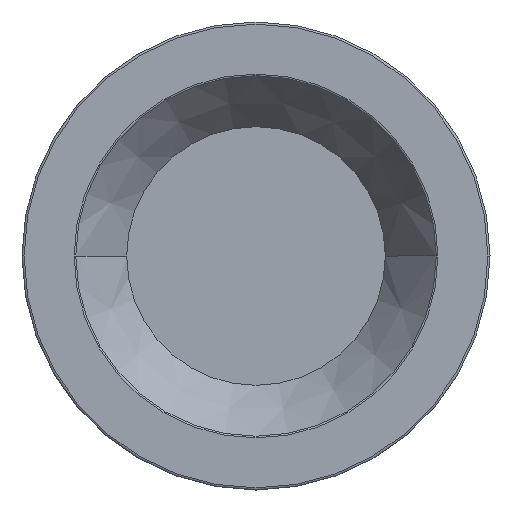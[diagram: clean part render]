
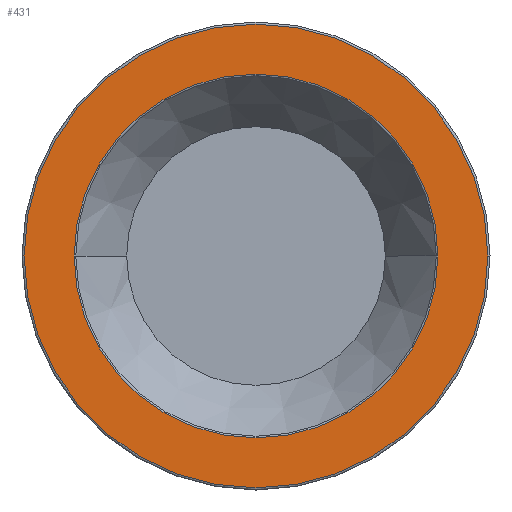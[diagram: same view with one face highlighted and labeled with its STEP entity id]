
A CAD part, front view. The second image highlights one B-rep face of the part: STEP entity #431.
In plain terms, the highlighted planar face has unit normal (0, -1, 0).
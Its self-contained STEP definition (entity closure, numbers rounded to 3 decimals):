
#21=CARTESIAN_POINT('',(0.,0.,0.));
#22=DIRECTION('',(0.,1.,0.));
#23=DIRECTION('',(-1.,0.,0.));
#24=AXIS2_PLACEMENT_3D('',#21,#22,#23);
#30=CARTESIAN_POINT('',(0.,0.,0.));
#31=DIRECTION('',(0.,1.,0.));
#32=DIRECTION('',(1.,0.,0.));
#33=AXIS2_PLACEMENT_3D('',#30,#31,#32);
#38=CARTESIAN_POINT('',(0.,0.,0.));
#39=DIRECTION('',(0.,-1.,0.));
#40=DIRECTION('',(1.,0.,0.));
#41=AXIS2_PLACEMENT_3D('',#38,#39,#40);
#46=CARTESIAN_POINT('',(0.,0.,0.));
#47=DIRECTION('',(0.,-1.,0.));
#48=DIRECTION('',(-1.,0.,0.));
#49=AXIS2_PLACEMENT_3D('',#46,#47,#48);
#378=CARTESIAN_POINT('',(-42.749,0.,0.));
#379=CARTESIAN_POINT('',(42.749,0.,0.));
#380=VERTEX_POINT('',#378);
#381=VERTEX_POINT('',#379);
#398=CARTESIAN_POINT('',(54.5,0.,0.));
#399=CARTESIAN_POINT('',(-54.5,0.,0.));
#400=VERTEX_POINT('',#398);
#401=VERTEX_POINT('',#399);
#414=CARTESIAN_POINT('',(0.,0.,0.));
#415=DIRECTION('',(0.,1.,0.));
#416=DIRECTION('',(1.,0.,0.));
#417=AXIS2_PLACEMENT_3D('',#414,#415,#416);
#418=PLANE('',#417);
#420=ORIENTED_EDGE('',*,*,#419,.F.);
#422=ORIENTED_EDGE('',*,*,#421,.F.);
#423=EDGE_LOOP('',(#420,#422));
#424=FACE_OUTER_BOUND('',#423,.F.);
#426=ORIENTED_EDGE('',*,*,#425,.F.);
#428=ORIENTED_EDGE('',*,*,#427,.F.);
#429=EDGE_LOOP('',(#426,#428));
#430=FACE_BOUND('',#429,.F.);
#431=ADVANCED_FACE('',(#424,#430),#418,.F.);
#25=CIRCLE('',#24,42.749);
#34=CIRCLE('',#33,42.749);
#42=CIRCLE('',#41,54.5);
#50=CIRCLE('',#49,54.5);
#419=EDGE_CURVE('',#400,#401,#42,.T.);
#421=EDGE_CURVE('',#401,#400,#50,.T.);
#425=EDGE_CURVE('',#380,#381,#25,.T.);
#427=EDGE_CURVE('',#381,#380,#34,.T.);
